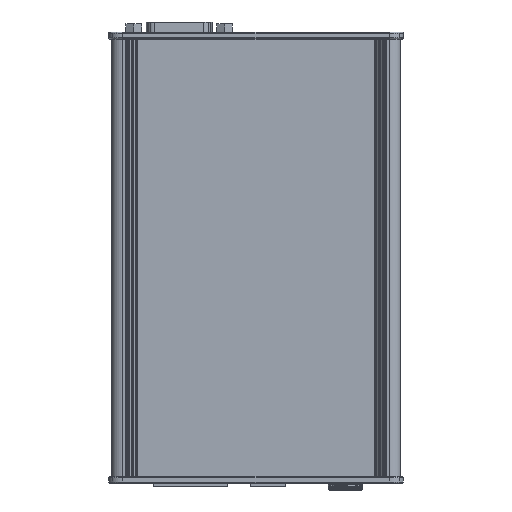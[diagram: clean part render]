
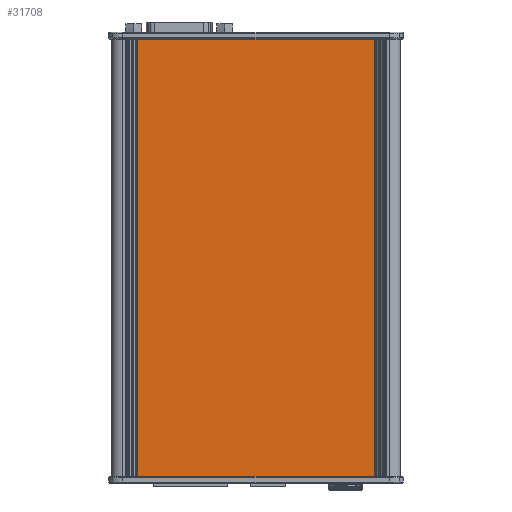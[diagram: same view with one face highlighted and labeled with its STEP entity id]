
A CAD part, front view. The second image highlights one B-rep face of the part: STEP entity #31708.
In plain terms, the highlighted planar face has unit normal (0, -1, 0).
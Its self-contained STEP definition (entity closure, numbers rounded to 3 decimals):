
#3663 = ORIENTED_EDGE ( 'NONE', *, *, #14631, .T. ) ;
#9581 = EDGE_CURVE ( 'NONE', #26037, #16850, #59328, .T. ) ;
#10070 = EDGE_LOOP ( 'NONE', ( #3663, #32283, #22943, #77921 ) ) ;
#11028 = LINE ( 'NONE', #79202, #79222 ) ;
#14631 = EDGE_CURVE ( 'NONE', #73918, #59549, #31320, .T. ) ;
#16850 = VERTEX_POINT ( 'NONE', #44342 ) ;
#18321 = EDGE_CURVE ( 'NONE', #26037, #59549, #36141, .T. ) ;
#19097 = VECTOR ( 'NONE', #38264, 1000. ) ;
#20947 = DIRECTION ( 'NONE',  ( 0., -1., 0. ) ) ;
#22176 = DIRECTION ( 'NONE',  ( 1., 0., 0. ) ) ;
#22678 = VECTOR ( 'NONE', #24714, 1000. ) ;
#22943 = ORIENTED_EDGE ( 'NONE', *, *, #9581, .T. ) ;
#23521 = CARTESIAN_POINT ( 'NONE',  ( 95.542, 0., 160. ) ) ;
#24570 = CARTESIAN_POINT ( 'NONE',  ( 9.458, 0., 160. ) ) ;
#24714 = DIRECTION ( 'NONE',  ( 0., 0., 1. ) ) ;
#26037 = VERTEX_POINT ( 'NONE', #43356 ) ;
#31320 = LINE ( 'NONE', #68478, #19097 ) ;
#31708 = ADVANCED_FACE ( 'NONE', ( #51951 ), #76883, .T. ) ;
#32283 = ORIENTED_EDGE ( 'NONE', *, *, #18321, .F. ) ;
#36141 = LINE ( 'NONE', #67165, #22678 ) ;
#36329 = VECTOR ( 'NONE', #22176, 1000. ) ;
#38264 = DIRECTION ( 'NONE',  ( -1., 0., 0. ) ) ;
#43356 = CARTESIAN_POINT ( 'NONE',  ( 9.458, 0., 0. ) ) ;
#44342 = CARTESIAN_POINT ( 'NONE',  ( 95.542, 0., 0. ) ) ;
#45829 = DIRECTION ( 'NONE',  ( 1., 0., 0. ) ) ;
#46238 = CARTESIAN_POINT ( 'NONE',  ( 95.542, 0., 0. ) ) ;
#51951 = FACE_OUTER_BOUND ( 'NONE', #10070, .T. ) ;
#59328 = LINE ( 'NONE', #73184, #36329 ) ;
#59549 = VERTEX_POINT ( 'NONE', #24570 ) ;
#66127 = EDGE_CURVE ( 'NONE', #16850, #73918, #11028, .T. ) ;
#66585 = AXIS2_PLACEMENT_3D ( 'NONE', #46238, #20947, #45829 ) ;
#67165 = CARTESIAN_POINT ( 'NONE',  ( 9.458, 0., 0. ) ) ;
#68478 = CARTESIAN_POINT ( 'NONE',  ( 95.542, 0., 160. ) ) ;
#73184 = CARTESIAN_POINT ( 'NONE',  ( 9.458, 0., 0. ) ) ;
#73477 = DIRECTION ( 'NONE',  ( 0., 0., 1. ) ) ;
#73918 = VERTEX_POINT ( 'NONE', #23521 ) ;
#76883 = PLANE ( 'NONE',  #66585 ) ;
#77921 = ORIENTED_EDGE ( 'NONE', *, *, #66127, .T. ) ;
#79202 = CARTESIAN_POINT ( 'NONE',  ( 95.542, 0., 0. ) ) ;
#79222 = VECTOR ( 'NONE', #73477, 1000. ) ;
